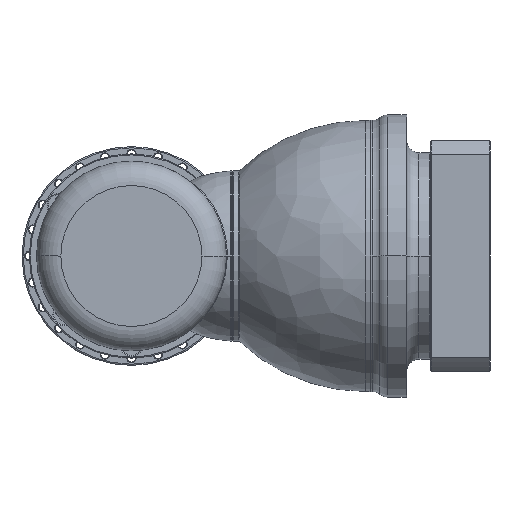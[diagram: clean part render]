
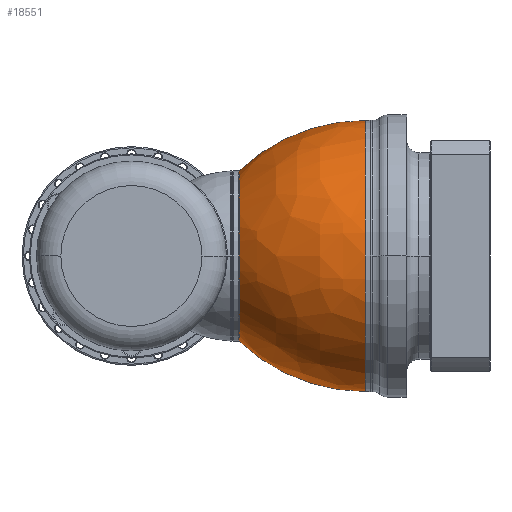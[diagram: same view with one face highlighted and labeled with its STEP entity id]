
A CAD part, left-side view. The second image highlights one B-rep face of the part: STEP entity #18551.
In plain terms, the highlighted free-form (B-spline) face has degree [3, 3] with [7, 4] control points.
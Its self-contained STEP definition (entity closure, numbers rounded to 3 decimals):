
#18257=CARTESIAN_POINT('',(-4.,0.,0.));
#18258=DIRECTION('',(1.,0.,0.));
#18259=DIRECTION('',(0.,-1.,0.));
#18260=AXIS2_PLACEMENT_3D('',#18257,#18258,#18259);
#18281=CARTESIAN_POINT('',(-4.,-39.563,0.));
#18282=DIRECTION('',(0.,0.,-1.));
#18283=DIRECTION('',(-0.687,0.726,0.));
#18284=AXIS2_PLACEMENT_3D('',#18281,#18282,#18283);
#18286=CARTESIAN_POINT('',(-4.,39.563,0.));
#18287=DIRECTION('',(0.,0.,1.));
#18288=DIRECTION('',(-0.687,-0.726,0.));
#18289=AXIS2_PLACEMENT_3D('',#18286,#18287,#18288);
#18301=CARTESIAN_POINT('',(-107.856,0.,0.));
#18302=DIRECTION('',(-1.,0.,0.));
#18303=DIRECTION('',(0.,1.,0.));
#18304=AXIS2_PLACEMENT_3D('',#18301,#18302,#18303);
#18352=CARTESIAN_POINT('',(-4.,111.5,0.));
#18353=CARTESIAN_POINT('',(-4.,-111.5,0.));
#18354=VERTEX_POINT('',#18352);
#18355=VERTEX_POINT('',#18353);
#18356=CARTESIAN_POINT('',(-107.856,70.137,0.));
#18357=CARTESIAN_POINT('',(-107.856,-70.137,0.));
#18358=VERTEX_POINT('',#18356);
#18359=VERTEX_POINT('',#18357);
#18516=CARTESIAN_POINT('',(-1.71,111.263,
7.));
#18517=CARTESIAN_POINT('',(-42.466,111.879,
7.039));
#18518=CARTESIAN_POINT('',(-80.335,96.827,
6.092));
#18519=CARTESIAN_POINT('',(-109.507,68.415,
4.304));
#18520=CARTESIAN_POINT('',(-1.71,115.57,
-61.471));
#18521=CARTESIAN_POINT('',(-42.466,116.211,
-61.812));
#18522=CARTESIAN_POINT('',(-80.335,100.576,
-53.495));
#18523=CARTESIAN_POINT('',(-109.507,71.063,
-37.798));
#18524=CARTESIAN_POINT('',(-1.71,68.606,
-111.483));
#18525=CARTESIAN_POINT('',(-42.466,68.987,
-112.101));
#18526=CARTESIAN_POINT('',(-80.335,59.705,
-97.019));
#18527=CARTESIAN_POINT('',(-109.507,42.185,
-68.55));
#18528=CARTESIAN_POINT('',(-1.71,0.,
-111.483));
#18529=CARTESIAN_POINT('',(-42.466,0.,
-112.101));
#18530=CARTESIAN_POINT('',(-80.335,0.,-97.019));
#18531=CARTESIAN_POINT('',(-109.507,0.,-68.55));
#18532=CARTESIAN_POINT('',(-1.71,-68.606,
-111.483));
#18533=CARTESIAN_POINT('',(-42.466,-68.987,
-112.101));
#18534=CARTESIAN_POINT('',(-80.335,-59.705,
-97.019));
#18535=CARTESIAN_POINT('',(-109.507,-42.185,
-68.55));
#18536=CARTESIAN_POINT('',(-1.71,-115.57,
-61.471));
#18537=CARTESIAN_POINT('',(-42.466,-116.211,
-61.812));
#18538=CARTESIAN_POINT('',(-80.335,-100.576,
-53.495));
#18539=CARTESIAN_POINT('',(-109.507,-71.063,
-37.798));
#18540=CARTESIAN_POINT('',(-1.71,-111.263,
7.));
#18541=CARTESIAN_POINT('',(-42.466,-111.879,
7.039));
#18542=CARTESIAN_POINT('',(-80.335,-96.827,
6.092));
#18543=CARTESIAN_POINT('',(-109.507,-68.415,
4.304));
#18544=(BOUNDED_SURFACE()B_SPLINE_SURFACE(3,3,((#18516,#18517,#18518,#18519),(
#18520,#18521,#18522,#18523),(#18524,#18525,#18526,#18527),(#18528,#18529,
#18530,#18531),(#18532,#18533,#18534,#18535),(#18536,#18537,#18538,#18539),(
#18540,#18541,#18542,#18543)),.UNSPECIFIED.,.F.,.F.,.F.)B_SPLINE_SURFACE_WITH_KNOTS((4,3,4),(4,4),(0.,1.,2.),(0.,1.),.UNSPECIFIED.)GEOMETRIC_REPRESENTATION_ITEM()RATIONAL_B_SPLINE_SURFACE(((1.235,1.171,
1.171,1.235),(0.975,0.925,
0.925,0.975),(0.975,0.925,
0.925,0.975),(1.235,1.171,
1.171,1.235),(0.975,0.925,
0.925,0.975),(0.975,0.925,
0.925,0.975),(1.235,1.171,
1.171,1.235)))REPRESENTATION_ITEM('')SURFACE());
#18545=ORIENTED_EDGE('',*,*,#18507,.T.);
#18546=ORIENTED_EDGE('',*,*,#18482,.T.);
#18547=ORIENTED_EDGE('',*,*,#18428,.T.);
#18548=ORIENTED_EDGE('',*,*,#18479,.F.);
#18549=EDGE_LOOP('',(#18545,#18546,#18547,#18548));
#18550=FACE_OUTER_BOUND('',#18549,.F.);
#18551=ADVANCED_FACE('',(#18550),#18544,.T.);
#18261=CIRCLE('',#18260,111.5);
#18285=CIRCLE('',#18284,151.063);
#18290=CIRCLE('',#18289,151.063);
#18305=CIRCLE('',#18304,70.137);
#18428=EDGE_CURVE('',#18355,#18354,#18261,.T.);
#18479=EDGE_CURVE('',#18358,#18354,#18285,.T.);
#18482=EDGE_CURVE('',#18359,#18355,#18290,.T.);
#18507=EDGE_CURVE('',#18358,#18359,#18305,.T.);
